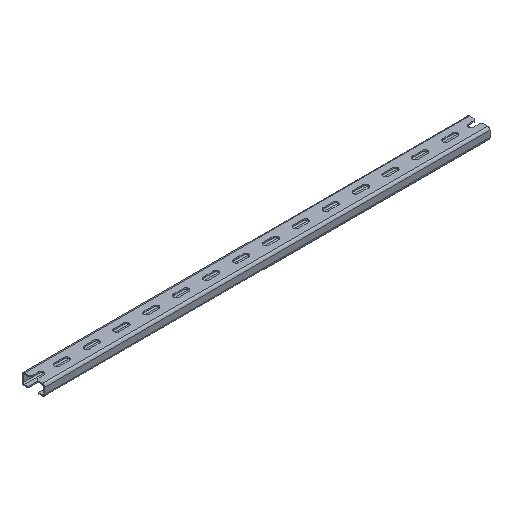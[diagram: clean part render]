
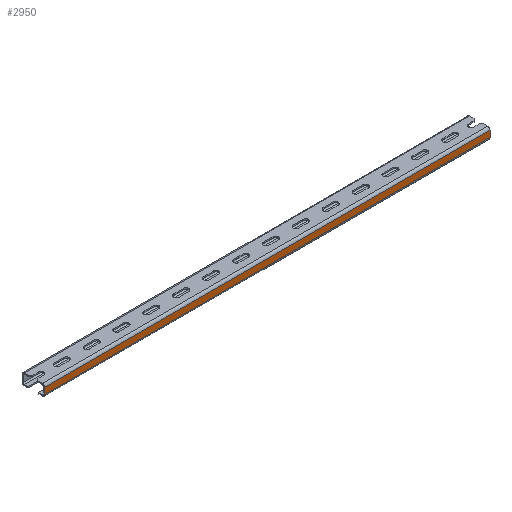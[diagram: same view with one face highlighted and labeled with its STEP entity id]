
A CAD part, isometric view. The second image highlights one B-rep face of the part: STEP entity #2950.
In plain terms, the highlighted planar face has unit normal (0, -1, 0).
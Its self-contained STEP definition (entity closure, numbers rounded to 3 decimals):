
#95 = AXIS2_PLACEMENT_3D ( 'NONE', #2314, #3633, #913 ) ;
#180 = DIRECTION ( 'NONE',  ( 0., 0., -1. ) ) ;
#186 = CARTESIAN_POINT ( 'NONE',  ( 372.5, -19., -14.5 ) ) ;
#203 = CARTESIAN_POINT ( 'NONE',  ( -372.5, -19., 0. ) ) ;
#347 = VERTEX_POINT ( 'NONE', #1060 ) ;
#523 = DIRECTION ( 'NONE',  ( -1., 0., 0. ) ) ;
#913 = DIRECTION ( 'NONE',  ( 0., 0., 1. ) ) ;
#997 = LINE ( 'NONE', #4245, #3008 ) ;
#1060 = CARTESIAN_POINT ( 'NONE',  ( 372.5, -19., -4. ) ) ;
#1076 = VECTOR ( 'NONE', #3838, 1000. ) ;
#1157 = VERTEX_POINT ( 'NONE', #4169 ) ;
#1177 = CARTESIAN_POINT ( 'NONE',  ( 372.5, -19., -14.5 ) ) ;
#1210 = EDGE_CURVE ( 'NONE', #1157, #4209, #3147, .T. ) ;
#1279 = DIRECTION ( 'NONE',  ( 0., 0., -1. ) ) ;
#1946 = FACE_OUTER_BOUND ( 'NONE', #4256, .T. ) ;
#2167 = LINE ( 'NONE', #4170, #3613 ) ;
#2314 = CARTESIAN_POINT ( 'NONE',  ( 372.5, -19., 0. ) ) ;
#2490 = EDGE_CURVE ( 'NONE', #347, #1157, #2167, .T. ) ;
#2600 = ORIENTED_EDGE ( 'NONE', *, *, #2941, .F. ) ;
#2941 = EDGE_CURVE ( 'NONE', #3642, #4209, #4183, .T. ) ;
#2950 = ADVANCED_FACE ( 'NONE', ( #1946 ), #3163, .F. ) ;
#3008 = VECTOR ( 'NONE', #1279, 1000. ) ;
#3070 = EDGE_CURVE ( 'NONE', #347, #3642, #997, .T. ) ;
#3147 = LINE ( 'NONE', #203, #3786 ) ;
#3163 = PLANE ( 'NONE',  #95 ) ;
#3539 = ORIENTED_EDGE ( 'NONE', *, *, #3070, .F. ) ;
#3570 = CARTESIAN_POINT ( 'NONE',  ( -372.5, -19., -14.5 ) ) ;
#3613 = VECTOR ( 'NONE', #523, 1000. ) ;
#3633 = DIRECTION ( 'NONE',  ( 0., 1., 0. ) ) ;
#3642 = VERTEX_POINT ( 'NONE', #186 ) ;
#3786 = VECTOR ( 'NONE', #180, 1000. ) ;
#3827 = ORIENTED_EDGE ( 'NONE', *, *, #1210, .T. ) ;
#3838 = DIRECTION ( 'NONE',  ( -1., 0., 0. ) ) ;
#4169 = CARTESIAN_POINT ( 'NONE',  ( -372.5, -19., -4. ) ) ;
#4170 = CARTESIAN_POINT ( 'NONE',  ( 372.5, -19., -4. ) ) ;
#4183 = LINE ( 'NONE', #1177, #1076 ) ;
#4197 = ORIENTED_EDGE ( 'NONE', *, *, #2490, .T. ) ;
#4209 = VERTEX_POINT ( 'NONE', #3570 ) ;
#4245 = CARTESIAN_POINT ( 'NONE',  ( 372.5, -19., 0. ) ) ;
#4256 = EDGE_LOOP ( 'NONE', ( #3827, #2600, #3539, #4197 ) ) ;
